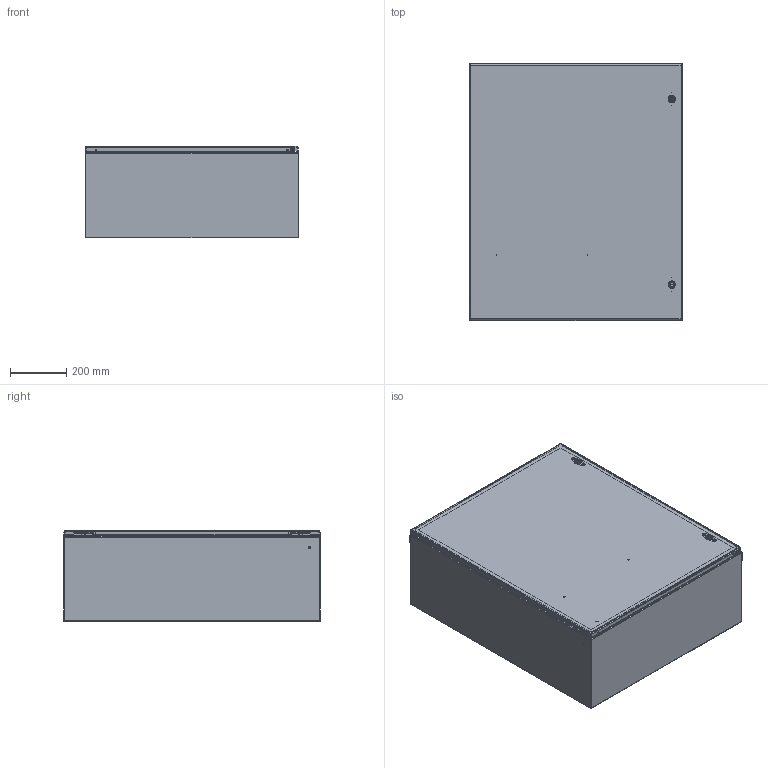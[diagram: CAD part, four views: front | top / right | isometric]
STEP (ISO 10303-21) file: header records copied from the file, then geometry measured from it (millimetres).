
FILE_DESCRIPTION (( 'STEP AP203' ), '1' );
FILE_NAME ('csd363012lg.STEP', '2012-06-11T17:59:35', ( 'User' ), ( 'Pentair Inc' ), 'SwSTEP 2.0', 'SolidWorks 2010', '' );
FILE_SCHEMA (( 'CONFIG_CONTROL_DESIGN' ));
Length unit declared in the file: inch
Products named in the file (28): 87927840_87927840; 87932903; 64138001; 87938010; 87543027; 89076399; 89076193; 89056623; 87929507; 87929767; 87929769_Installed on Pin; 64203001; csd363012lg; 87922279; 87922188_default; 87922186_default; 23271001_After Weld; 87937945_assy; 87937985_weldment; 87936144; 99401225; 87931362_87931362; 64101001; 64201001; 87541994_Installed Height; 87541995; 64202001; 64210001
Assembly tree (47 placements, depth 4):
  csd363012lg
    87922279
      23271001_After Weld  x6
      87922188_default
      99401225
      87922186_default  x2
    87543027  x2
    87937945_assy
      87932903  x4
      64138001  x2
      87937985_weldment
        87931362_87931362  x6
        99401225
        87936144
      87938010
      64101001  x2
        64202001
        64210001
        64203001
        87541994_Installed Height
        64201001
        87541995
        87927840_87927840
    89076399  x2
      89056623
      89076193
    87929507  x2
      87929767
      87929769_Installed on Pin
Bounding box: 762 x 915.17 x 325.5 mm (x, y, z)
Volume: 4918617.7 mm3; surface area: 5275956.1 mm2
Topology: 51 solids, 51 shells, 2371 faces, 5846 edges, 3536 vertices
Faces by surface type: plane 859, cylinder 720, bspline 504, torus 140, cone 140, sphere 8
Entity records: 45848 total; most frequent: CARTESIAN_POINT 15783, ORIENTED_EDGE 5802, DIRECTION 5139, EDGE_CURVE 2901, AXIS2_PLACEMENT_3D 1862, VERTEX_POINT 1794, LINE 1415, VECTOR 1415
